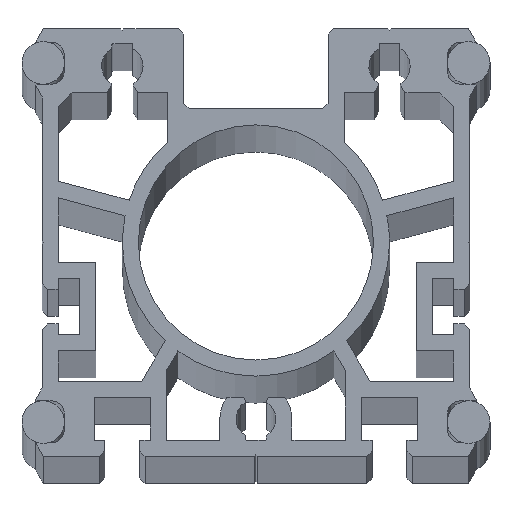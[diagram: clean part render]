
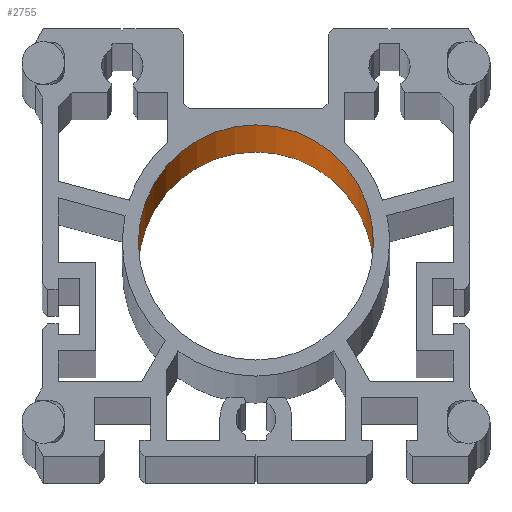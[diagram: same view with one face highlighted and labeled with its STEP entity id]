
A CAD part, top view. The second image highlights one B-rep face of the part: STEP entity #2755.
In plain terms, the highlighted cylindrical face has radius 22 mm (diameter 44 mm), a partial arc.
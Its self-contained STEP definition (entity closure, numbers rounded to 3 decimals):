
#26 = VERTEX_POINT ( 'NONE', #3396 ) ;
#27 = VERTEX_POINT ( 'NONE', #3395 ) ;
#29 = EDGE_CURVE ( 'NONE', #26, #30, #3394, .T. ) ;
#30 = VERTEX_POINT ( 'NONE', #3261 ) ;
#33 = VERTEX_POINT ( 'NONE', #3255 ) ;
#35 = EDGE_CURVE ( 'NONE', #27, #33, #3254, .T. ) ;
#1736 = EDGE_CURVE ( 'NONE', #27, #26, #6197, .T. ) ;
#2750 = EDGE_CURVE ( 'NONE', #33, #30, #7550, .T. ) ;
#2755 = ADVANCED_FACE ( 'NONE', ( #7543 ), #7538, .F. ) ;
#2756 = EDGE_LOOP ( 'NONE', ( #2759, #2761, #2764, #2767 ) ) ;
#2759 = ORIENTED_EDGE ( 'NONE', *, *, #29, .F. ) ;
#2761 = ORIENTED_EDGE ( 'NONE', *, *, #1736, .F. ) ;
#2764 = ORIENTED_EDGE ( 'NONE', *, *, #35, .T. ) ;
#2767 = ORIENTED_EDGE ( 'NONE', *, *, #2750, .T. ) ;
#3251 = DIRECTION ( 'NONE',  ( 0., 0., 1. ) ) ;
#3252 = VECTOR ( 'NONE', #3251, 1000. ) ;
#3253 = CARTESIAN_POINT ( 'NONE',  ( 22., 40., -1449. ) ) ;
#3254 = LINE ( 'NONE', #3253, #3252 ) ;
#3255 = CARTESIAN_POINT ( 'NONE',  ( 22., 40., 1449. ) ) ;
#3261 = CARTESIAN_POINT ( 'NONE',  ( -22., 40., 1449. ) ) ;
#3391 = DIRECTION ( 'NONE',  ( 0., 0., 1. ) ) ;
#3392 = VECTOR ( 'NONE', #3391, 1000. ) ;
#3393 = CARTESIAN_POINT ( 'NONE',  ( -22., 40., -1449. ) ) ;
#3394 = LINE ( 'NONE', #3393, #3392 ) ;
#3395 = CARTESIAN_POINT ( 'NONE',  ( 22., 40., -1449. ) ) ;
#3396 = CARTESIAN_POINT ( 'NONE',  ( -22., 40., -1449. ) ) ;
#6193 = DIRECTION ( 'NONE',  ( 1., 0., 0. ) ) ;
#6194 = DIRECTION ( 'NONE',  ( 0., 0., 1. ) ) ;
#6195 = CARTESIAN_POINT ( 'NONE',  ( 0., 40., -1449. ) ) ;
#6196 = AXIS2_PLACEMENT_3D ( 'NONE', #6195, #6194, #6193 ) ;
#6197 = CIRCLE ( 'NONE', #6196, 22. ) ;
#7533 = DIRECTION ( 'NONE',  ( 1., 0., 0. ) ) ;
#7534 = DIRECTION ( 'NONE',  ( 0., 0., 1. ) ) ;
#7535 = CARTESIAN_POINT ( 'NONE',  ( 0., 40., -1449. ) ) ;
#7536 = AXIS2_PLACEMENT_3D ( 'NONE', #7535, #7534, #7533 ) ;
#7538 = CYLINDRICAL_SURFACE ( 'NONE', #7536, 22. ) ;
#7543 = FACE_OUTER_BOUND ( 'NONE', #2756, .T. ) ;
#7546 = DIRECTION ( 'NONE',  ( 1., 0., 0. ) ) ;
#7547 = DIRECTION ( 'NONE',  ( 0., 0., 1. ) ) ;
#7548 = CARTESIAN_POINT ( 'NONE',  ( 0., 40., 1449. ) ) ;
#7549 = AXIS2_PLACEMENT_3D ( 'NONE', #7548, #7547, #7546 ) ;
#7550 = CIRCLE ( 'NONE', #7549, 22. ) ;
